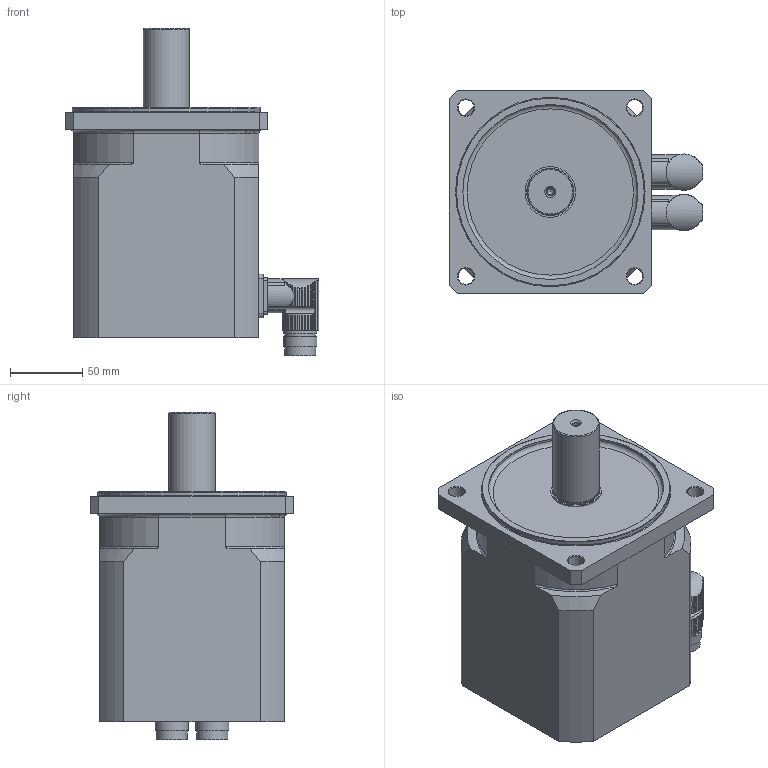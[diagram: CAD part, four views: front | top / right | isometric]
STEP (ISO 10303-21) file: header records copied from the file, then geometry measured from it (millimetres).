
FILE_DESCRIPTION(/* description */ (''),/* implementation_level */ '2;1');
FILE_NAME(/* name */ 'KSY 564 D-R4',/* time_stamp */ '2007-01-03T14:50:10+01:00',/* author */ (''),/* organization */ (''),/* preprocessor_version */ 'ST-DEVELOPER v8',/* originating_system */ 'UNIGRAPHICS SOLUTIONS - UNIGRAPHICS 18.0',/* authorisation */ '');
FILE_SCHEMA (('AUTOMOTIVE_DESIGN { 1 2 10303 214 0 1 1 1 }'));
Length unit declared in the file: millimetre
Products named in the file (3): Winkelflanschdose_0; Rotor_SY5_0; KSY564D-R4_0
Assembly tree (3 placements, depth 2):
  KSY564D-R4_0
    Rotor_SY5_0
    Winkelflanschdose_0  x2
Bounding box: 175.49 x 140 x 226.15 mm (x, y, z)
Volume: 2604951.8 mm3; surface area: 144100.9 mm2
Topology: 4 solids, 4 shells, 410 faces, 1138 edges, 753 vertices
Faces by surface type: cylinder 315, plane 69, cone 13, torus 13
Full cylindrical faces by diameter (mm): 4.351 x1, 5.5 x1, 11 x4, 16 x2, 21 x2, 21.5 x2, 23 x4, 31.52 x1, 32 x1, 35 x1, 121 x1, 130 x1
Entity records: 8139 total; most frequent: CARTESIAN_POINT 2068, ORIENTED_EDGE 1262, DIRECTION 1198, EDGE_CURVE 631, AXIS2_PLACEMENT_3D 481, VERTEX_POINT 433, EDGE_LOOP 295, ADVANCED_FACE 246
